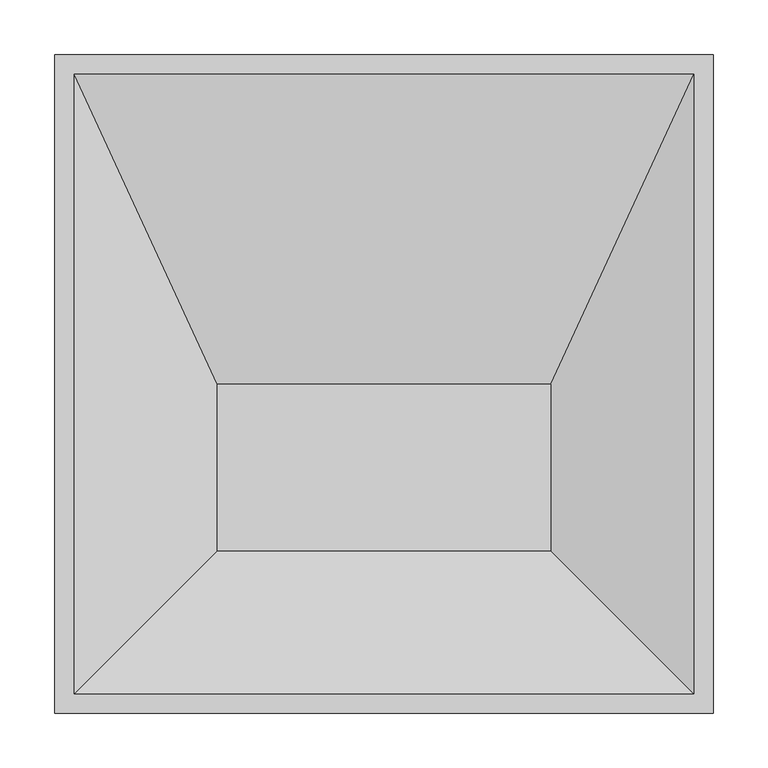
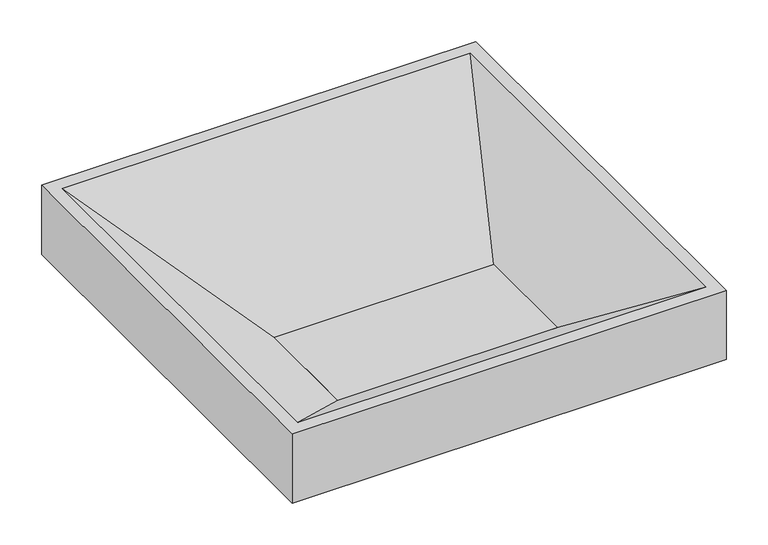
"""IFC4 building model written with IfcOpenShell, lengths in millimetres: proxy geometry, Turf_Pantheon Tile : Pantheon C1."""

from ifc_helpers import new_model, si_unit, origin, origin_with_axes, place, context, project, spatial, polyline, outline, extrude, faceted_brep, source, transform, mapped, element, save


def specialty_equipment_32588a77(model_context):
    return source(origin(), model_context, "Body", "SolidModel", [
        extrude(outline(polyline([(196.05625, -495.3), (-108.74375, -495.3), (-108.74375, -342.9), (196.05625, -342.9), (196.05625, -495.3)])), origin_with_axes(), (0.0, 0.0, 1.0), 9.0289063),
        faceted_brep([(196.05625, -495.3, 9.0289062), (326.5289063, -625.7726563, 101.6), (326.5289063, -60.0273438, 101.6), (196.05625, -342.9, 9.0289062), (-239.2164062, -60.0273438, 101.6), (-108.74375, -342.9, 9.0289062), (-239.2164062, -625.7726563, 101.6), (-108.74375, -495.3, 9.0289062), (344.4875, -42.06875, 101.6), (-257.175, -42.06875, 101.6), (-257.175, -643.73125, 101.6), (344.4875, -643.73125, 101.6), (344.4875, -42.06875, 0.0), (344.4875, -643.73125, 0.0), (-257.175, -643.73125, 0.0), (-257.175, -42.06875, 0.0), (196.05625, -495.3, 0.0), (196.05625, -342.9, 0.0), (-108.74375, -342.9, 0.0), (-108.74375, -495.3, 0.0)], [[[0, 1, 2, 3]], [[3, 2, 4, 5]], [[5, 4, 6, 7]], [[1, 0, 7, 6]], [[8, 9, 10, 11], [2, 1, 6, 4]], [[12, 13, 14, 15], [16, 17, 18, 19]], [[9, 8, 12, 15]], [[10, 9, 15, 14]], [[11, 10, 14, 13]], [[8, 11, 13, 12]], [[3, 17, 16, 0]], [[17, 3, 5, 18]], [[18, 5, 7, 19]], [[0, 16, 19, 7]]]),
    ])


if __name__ == "__main__":
    model = new_model("IFC4")
    model_context = context("Model", 3, world=origin())
    ifc_project = project(units=[si_unit("LENGTHUNIT", "METRE", prefix="MILLI")], contexts=[model_context])
    site = spatial("IfcSite", under=ifc_project)
    building = spatial("IfcBuilding", under=site)
    placement = place(None, origin())
    specialty_equipment_shape = specialty_equipment_32588a77(model_context)
    element("IfcBuildingElementProxy", 1, Name="Turf_Pantheon Tile : Pantheon C1", ObjectType="Turf_Pantheon Tile : Pantheon C1", at=placement, inside=building, context=model_context, shape_type="MappedRepresentation", body=[
        mapped(specialty_equipment_shape, transform((0.0, 0.0, 0.0), x_axis=(1.0, 0.0, 0.0), y_axis=(0.0, 1.0, 0.0), z_axis=(0.0, 0.0, 1.0))),
    ])
    save(model, "model.ifc")
